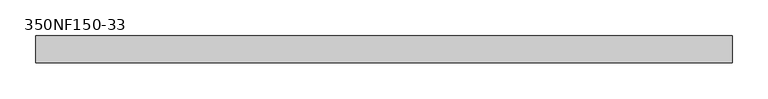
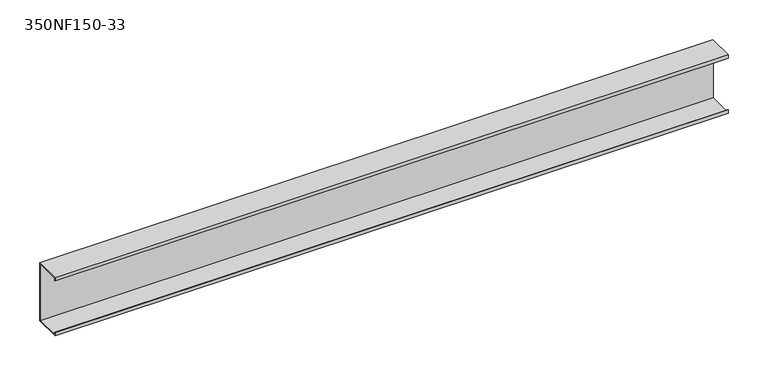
"""IFC4 building model written with IfcOpenShell, lengths in millimetres: beam geometry, BIMSF-SSMA-S : 350NF150-33."""

from ifc_helpers import new_model, si_unit, frame, origin, place, context, project, spatial, polyline, outline, extrude, source, transform, mapped, element, save


def beam_350nf150_33_17b93a07(model_context):
    return source(origin(), model_context, "Body", "SweptSolid", [
        extrude(outline(polyline([(19.05, 44.45), (19.05, -44.45), (-19.05, -44.45), (-19.05, -39.6748), (-18.1676842, -39.6748), (-18.1676842, -43.5676842), (18.1676842, -43.5676842), (18.1676842, 43.5676842), (-18.1676842, 43.5676842), (-18.1676842, 39.6748), (-19.05, 39.6748), (-19.05, 44.45), (19.05, 44.45)])), frame((-487.3625, 0.0, 0.0), z_axis=(1.0, 0.0, 0.0), x_axis=(0.0, 1.0, 0.0)), (0.0, 0.0, 1.0), 974.725),
    ])


if __name__ == "__main__":
    model = new_model("IFC4")
    model_context = context("Model", 3, world=origin())
    ifc_project = project(units=[si_unit("LENGTHUNIT", "METRE", prefix="MILLI")], contexts=[model_context])
    site = spatial("IfcSite", under=ifc_project)
    building = spatial("IfcBuilding", under=site)
    placement = place(None, origin())
    beam_350nf150_33_shape = beam_350nf150_33_17b93a07(model_context)
    element("IfcBeam", 1, ObjectType="BIMSF-SSMA-S : 350NF150-33", at=placement, inside=building, context=model_context, shape_type="MappedRepresentation", body=[
        mapped(beam_350nf150_33_shape, transform((0.0, 0.0, 0.0), x_axis=(1.0, 0.0, 0.0), y_axis=(0.0, 1.0, 0.0), z_axis=(0.0, 0.0, 1.0))),
    ])
    save(model, "model.ifc")
